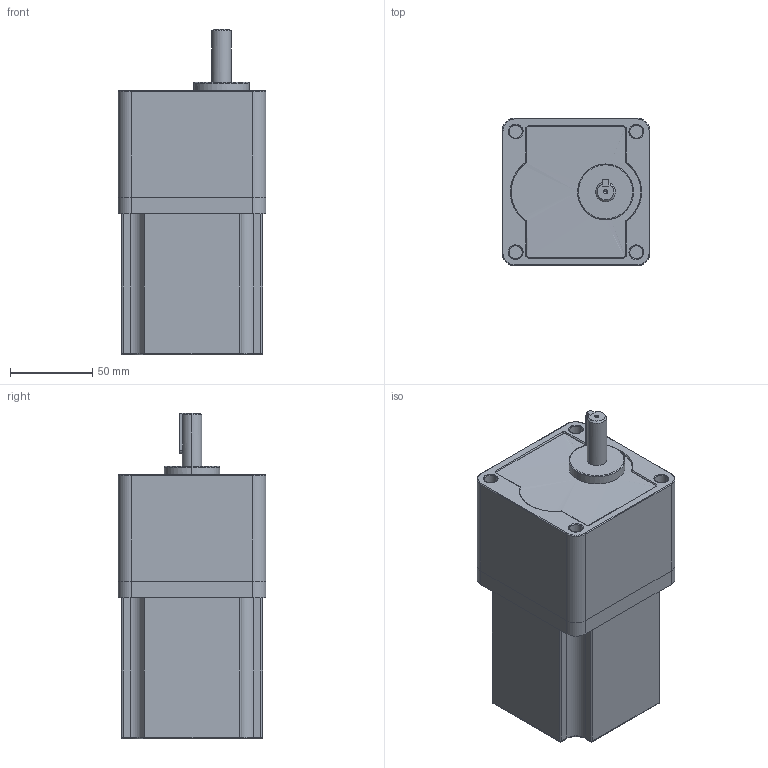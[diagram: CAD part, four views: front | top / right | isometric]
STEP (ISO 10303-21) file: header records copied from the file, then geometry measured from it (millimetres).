
FILE_DESCRIPTION (( 'STEP AP203' ), '1' );
FILE_NAME ('TM3402GU45A+5GU（L12）.STEP', '2026-07-20T03:09:54', ( 'user' ), ( '微软中国' ), 'SwSTEP 2.0', 'SolidWorks 2014', '' );
FILE_SCHEMA (( 'CONFIG_CONTROL_DESIGN' ));
Length unit declared in the file: millimetre
Products named in the file (1): TM3402GU45A+5GU（L12）
Bounding box: 90 x 90 x 198.5 mm (x, y, z)
Surface area: 116693.4 mm2 (no closed solid volume)
Topology: 0 solids, 5 shells, 141 faces, 344 edges, 202 vertices
Faces by surface type: cylinder 70, plane 36, bspline 18, sphere 8, cone 5, torus 4
Entity records: 5755 total; most frequent: CARTESIAN_POINT 2592, DIRECTION 636, ORIENTED_EDGE 635, EDGE_CURVE 334, AXIS2_PLACEMENT_3D 245, VERTEX_POINT 202, EDGE_LOOP 149, VECTOR 146
